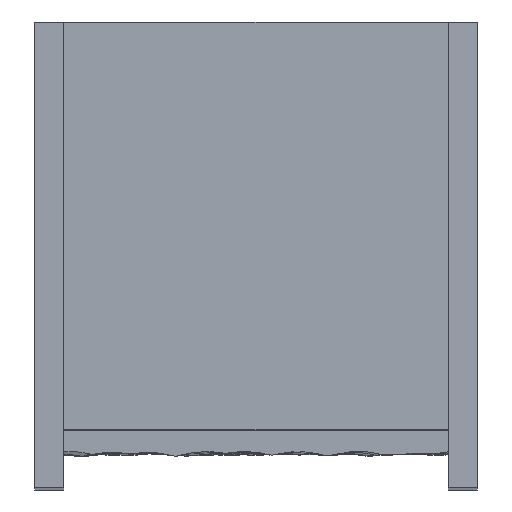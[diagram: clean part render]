
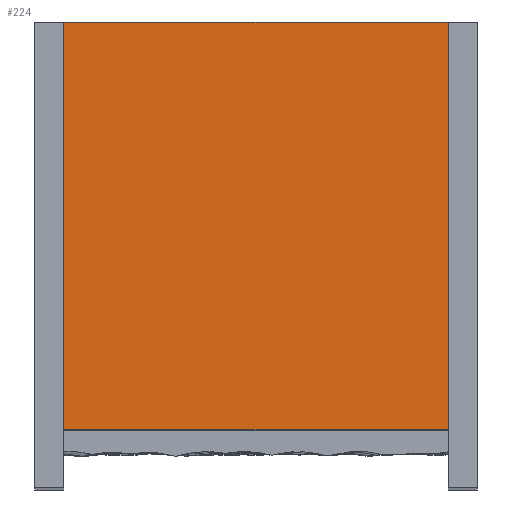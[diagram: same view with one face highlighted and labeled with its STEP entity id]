
A CAD part, top view. The second image highlights one B-rep face of the part: STEP entity #224.
In plain terms, the highlighted planar face has unit normal (0, 0, 1).
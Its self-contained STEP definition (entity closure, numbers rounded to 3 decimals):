
#224=ADVANCED_FACE('',(#438),#3461,.T.);
#438=FACE_OUTER_BOUND('',#652,.T.);
#652=EDGE_LOOP('',(#1800,#1801,#1802,#1803));
#1800=ORIENTED_EDGE('',*,*,#2424,.T.);
#1801=ORIENTED_EDGE('',*,*,#2426,.T.);
#1802=ORIENTED_EDGE('',*,*,#2420,.T.);
#1803=ORIENTED_EDGE('',*,*,#2416,.T.);
#2416=EDGE_CURVE('',#3416,#3420,#3011,.T.);
#2420=EDGE_CURVE('',#3418,#3416,#3015,.T.);
#2424=EDGE_CURVE('',#3420,#3421,#3019,.T.);
#2426=EDGE_CURVE('',#3421,#3418,#3021,.T.);
#3011=B_SPLINE_CURVE_WITH_KNOTS('',1,(#11397,#11398),.UNSPECIFIED.,.F.,
 .F.,(2,2),(0.,310.),.UNSPECIFIED.);
#3015=B_SPLINE_CURVE_WITH_KNOTS('',1,(#11405,#11406),.UNSPECIFIED.,.F.,
 .F.,(2,2),(1110.,1460.),.UNSPECIFIED.);
#3019=B_SPLINE_CURVE_WITH_KNOTS('',1,(#11413,#11414),.UNSPECIFIED.,.F.,
 .F.,(2,2),(-526.,-176.),.UNSPECIFIED.);
#3021=B_SPLINE_CURVE_WITH_KNOTS('',1,(#11417,#11418),.UNSPECIFIED.,.F.,
 .F.,(2,2),(800.,1110.),.UNSPECIFIED.);
#3416=VERTEX_POINT('',#11388);
#3418=VERTEX_POINT('',#11390);
#3420=VERTEX_POINT('',#11392);
#3421=VERTEX_POINT('',#11393);
#3461=PLANE('',#3763);
#3763=AXIS2_PLACEMENT_3D('',#11385,#3802,$);
#3802=DIRECTION('',(0.,0.,1.));
#11385=CARTESIAN_POINT('',(-2281.566,150.,975.));
#11388=CARTESIAN_POINT('',(-2281.566,150.,975.));
#11390=CARTESIAN_POINT('',(-2281.566,500.,975.));
#11392=CARTESIAN_POINT('',(-1951.566,150.,975.));
#11393=CARTESIAN_POINT('',(-1951.566,500.,975.));
#11397=CARTESIAN_POINT('',(-2281.566,150.,975.));
#11398=CARTESIAN_POINT('',(-1951.566,150.,975.));
#11405=CARTESIAN_POINT('',(-2281.566,500.,975.));
#11406=CARTESIAN_POINT('',(-2281.566,150.,975.));
#11413=CARTESIAN_POINT('',(-1951.566,150.,975.));
#11414=CARTESIAN_POINT('',(-1951.566,500.,975.));
#11417=CARTESIAN_POINT('',(-1951.566,500.,975.));
#11418=CARTESIAN_POINT('',(-2281.566,500.,975.));
